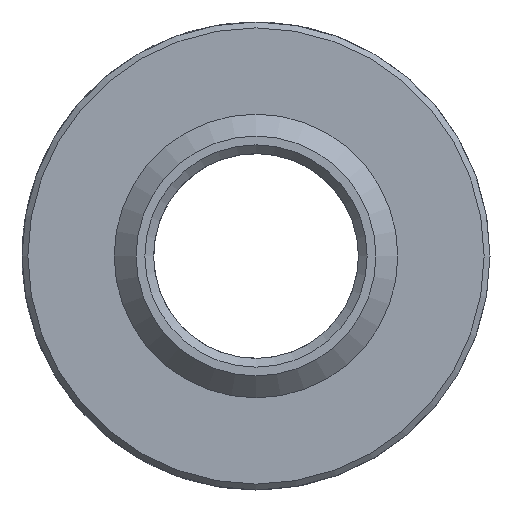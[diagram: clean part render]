
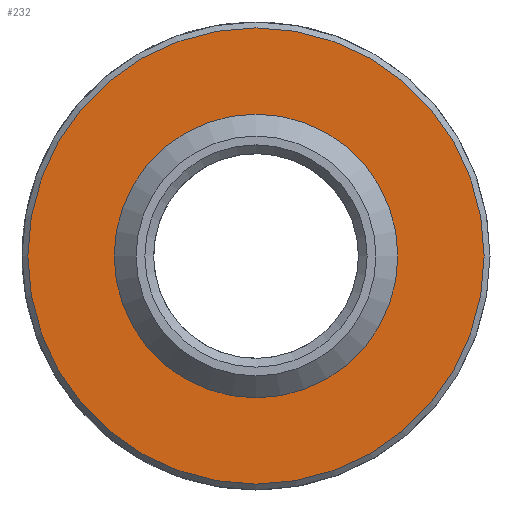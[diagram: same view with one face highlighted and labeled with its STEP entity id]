
A CAD part, front view. The second image highlights one B-rep face of the part: STEP entity #232.
In plain terms, the highlighted planar face has unit normal (0, -1, 0).
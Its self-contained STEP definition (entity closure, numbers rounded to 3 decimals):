
#14=FACE_BOUND('',#44,.T.);
#17=PLANE('',#274);
#30=FACE_OUTER_BOUND('',#43,.T.);
#43=EDGE_LOOP('',(#171));
#44=EDGE_LOOP('',(#172,#173));
#75=CIRCLE('',#262,4.25);
#76=CIRCLE('',#263,4.25);
#84=CIRCLE('',#275,7.8);
#96=VERTEX_POINT('',#377);
#97=VERTEX_POINT('',#378);
#105=VERTEX_POINT('',#403);
#117=EDGE_CURVE('',#96,#97,#75,.T.);
#118=EDGE_CURVE('',#97,#96,#76,.T.);
#130=EDGE_CURVE('',#105,#105,#84,.T.);
#171=ORIENTED_EDGE('',*,*,#130,.F.);
#172=ORIENTED_EDGE('',*,*,#117,.T.);
#173=ORIENTED_EDGE('',*,*,#118,.T.);
#232=ADVANCED_FACE('',(#30,#14),#17,.T.);
#262=AXIS2_PLACEMENT_3D('',#379,#299,#300);
#263=AXIS2_PLACEMENT_3D('',#380,#301,#302);
#274=AXIS2_PLACEMENT_3D('',#402,#327,#328);
#275=AXIS2_PLACEMENT_3D('',#404,#329,#330);
#299=DIRECTION('center_axis',(0.,1.,0.));
#300=DIRECTION('ref_axis',(1.,0.,0.));
#301=DIRECTION('center_axis',(0.,1.,0.));
#302=DIRECTION('ref_axis',(1.,0.,0.));
#327=DIRECTION('center_axis',(0.,-1.,0.));
#328=DIRECTION('ref_axis',(0.,0.,-1.));
#329=DIRECTION('center_axis',(0.,1.,0.));
#330=DIRECTION('ref_axis',(1.,0.,0.));
#377=CARTESIAN_POINT('',(-4.25,6.,0.));
#378=CARTESIAN_POINT('',(4.25,6.,0.));
#379=CARTESIAN_POINT('Origin',(0.,6.,0.));
#380=CARTESIAN_POINT('Origin',(0.,6.,0.));
#402=CARTESIAN_POINT('Origin',(-8.,6.,0.));
#403=CARTESIAN_POINT('',(-7.8,6.,0.));
#404=CARTESIAN_POINT('Origin',(0.,6.,0.));
